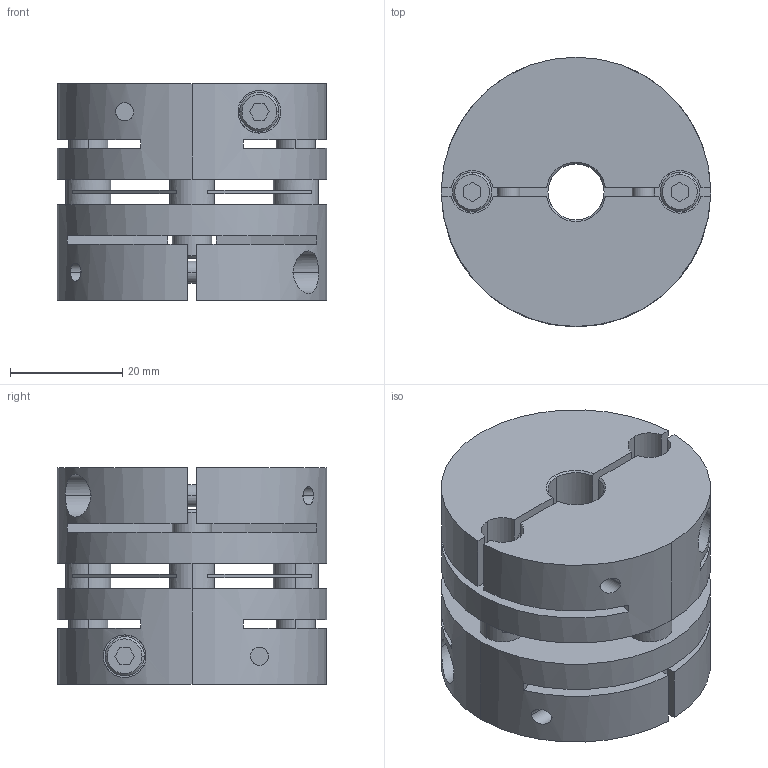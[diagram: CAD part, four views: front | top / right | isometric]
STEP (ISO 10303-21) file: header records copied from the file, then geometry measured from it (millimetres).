
FILE_DESCRIPTION((''),'2;1');
FILE_NAME('LAS-48C-10×12.stp','2015-10-14T15:34:57',(''),(''),'AutoCAD STEP 2000i','AutoCAD 2000i',', , ');
FILE_SCHEMA(('CONFIG_CONTROL_DESIGN'));
Length unit declared in the file: millimetre
Products named in the file (5): LAS-48C-12×12; 忣兜1; LA-4802-D12-1; LA-4802-D12; LAS48-ITA
Assembly tree (4 placements, depth 2):
  LAS-48C-12×12
    忣兜1
    LA-4802-D12-1
    LA-4802-D12
    LAS48-ITA
Bounding box: 48 x 48 x 38.6 mm (x, y, z)
Volume: 52277.8 mm3; surface area: 22787.9 mm2
Topology: 1 solids, 1 shells, 224 faces, 588 edges, 384 vertices
Faces by surface type: plane 112, cylinder 84, cone 28
Entity records: 7607 total; most frequent: CARTESIAN_POINT 1713, DIRECTION 1250, ORIENTED_EDGE 1176, EDGE_CURVE 588, AXIS2_PLACEMENT_3D 457, VERTEX_POINT 384, VECTOR 336, LINE 336
